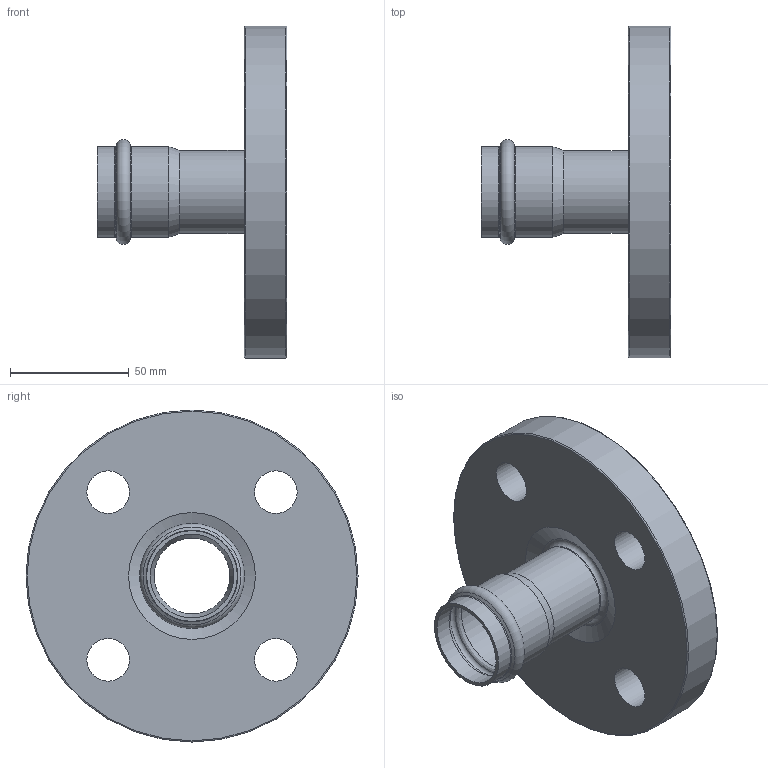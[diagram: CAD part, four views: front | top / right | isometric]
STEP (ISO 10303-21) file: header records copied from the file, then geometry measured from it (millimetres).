
FILE_DESCRIPTION((''),'2;1');
FILE_NAME('G:\Nirosan-Schmiedefeld\Technics\CAD\001 Serie 9.000\035\6VAPF35h(2).stp','2014-11-10T13:43:35',('herberg'),(''),'Autodesk Inventor 2009','Autodesk Inventor 2009','');
FILE_SCHEMA(('AUTOMOTIVE_DESIGN { 1 0 10303 214 1 1 1 1 }'));
Length unit declared in the file: millimetre
Products named in the file (3): 6VAPF35h(2); 69HMF35p(0); 69FL35100p(0)
Assembly tree (2 placements, depth 2):
  6VAPF35h(2)
    69HMF35p(0)
    69FL35100p(0)
Bounding box: 80 x 140 x 140 mm (x, y, z)
Volume: 253445.6 mm3; surface area: 55980.5 mm2
Topology: 2 solids, 2 shells, 32 faces, 65 edges, 38 vertices
Faces by surface type: cylinder 13, cone 5, torus 5, plane 5, bspline 4
Full cylindrical faces by diameter (mm): 18 x4, 32 x2, 35 x2, 35.25 x2, 38.25 x2, 140 x1
Entity records: 950 total; most frequent: CARTESIAN_POINT 285, DIRECTION 138, ORIENTED_EDGE 72, EDGE_LOOP 72, AXIS2_PLACEMENT_3D 69, FACE_BOUND 40, VERTEX_POINT 36, CIRCLE 36
